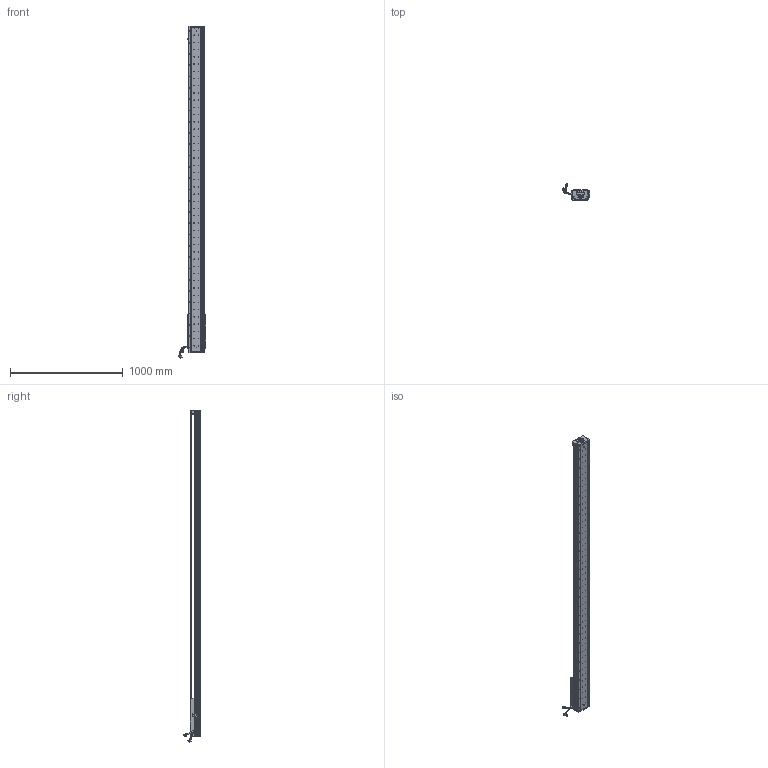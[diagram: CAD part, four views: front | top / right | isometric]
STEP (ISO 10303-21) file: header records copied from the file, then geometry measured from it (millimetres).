
FILE_DESCRIPTION (( 'STEP AP203' ), '1' );
FILE_NAME ('Z4-RY140D-1-L500-B-K.SLDASM_2500.step', '2021-05-17T08:20:06', ( '盈信电脑' ), ( '东莞市道滘镇水果街19号' ), 'SwSTEP 2.0', 'SolidWorks 2016', '' );
FILE_SCHEMA (( 'CONFIG_CONTROL_DESIGN' ));
Length unit declared in the file: millimetre
Products named in the file (36): Z4-RY140圉猾敕臏賑輸(21遴); Z-RY140感应器672光电感应片; SHIELDPLATE; SEAL-Part-1; SCREW-M1.7; 140雄赽晤鎢ん堤盄; PSLH080_PSLF2; 覜茼ん672; 140-Z-臏賑輸盄裔(21遴); PBU_SHEET; HARNESS; Z-140詩湍傷裔啣; Z4-RY140-L500詩湍100mm遵_2500; 詩湍狟揤裔; LABEL-Part-1; COVER; SCALE-Part-2; SCREW-M1.6-3; SCREW-M1.6-2; 榋妏寠巭燃_暯_M2_2; SCALE-Part-1; 080黍杅芛假蚾釱21遴; SCALE; Z4-RY140D-1-L500-B-K.SLDASM_2500; 140蚥薯蝶輸; HOLDER0; HARNESS-Part-1; 詩湍奻揤裔; HARNESS-Part-2; SCREW-M1.6; SEAL; COVER-Part-1; Z4-RY140-L500直线电机模组底座_2500; LABEL; SCREW-M1.6-1; SCREW-M1.7-1
Assembly tree (41 placements, depth 4):
  Z4-RY140D-1-L500-B-K.SLDASM_2500
    Z4-RY140-L500直线电机模组底座_2500
    Z-RY140感应器672光电感应片
    Z4-RY140圉猾敕臏賑輸(21遴)
    覜茼ん672  x3
    Z4-RY140-L500詩湍100mm遵_2500
    PSLH080_PSLF2
      SCALE
        SCALE-Part-1
        SCALE-Part-2
      HARNESS
        HARNESS-Part-1
        HARNESS-Part-2
      LABEL
        LABEL-Part-1
      COVER
        COVER-Part-1
      SEAL
        SEAL-Part-1
      榋妏寠巭燃_暯_M2_2
      SHIELDPLATE
      SCREW-M1.7
      SCREW-M1.7-1
      PBU_SHEET
      SCREW-M1.6
      SCREW-M1.6-1
      SCREW-M1.6-2
      SCREW-M1.6-3
      HOLDER0
    080黍杅芛假蚾釱21遴
    140-Z-臏賑輸盄裔(21遴)
    Z-140詩湍傷裔啣  x2
    詩湍狟揤裔  x2
    詩湍奻揤裔  x2
    140蚥薯蝶輸  x2
    140雄赽晤鎢ん堤盄
Bounding box: 239.79 x 143.88 x 2940.87 mm (x, y, z)
Volume: 9521035.1 mm3; surface area: 2462626.8 mm2
Topology: 36 solids, 36 shells, 4350 faces, 11880 edges, 7527 vertices
Faces by surface type: cylinder 2394, plane 1412, cone 422, torus 69, bspline 53
Entity records: 139416 total; most frequent: CARTESIAN_POINT 39873, ORIENTED_EDGE 20640, DIRECTION 18964, EDGE_CURVE 10320, AXIS2_PLACEMENT_3D 7066, VERTEX_POINT 6695, LINE 4832, VECTOR 4832
